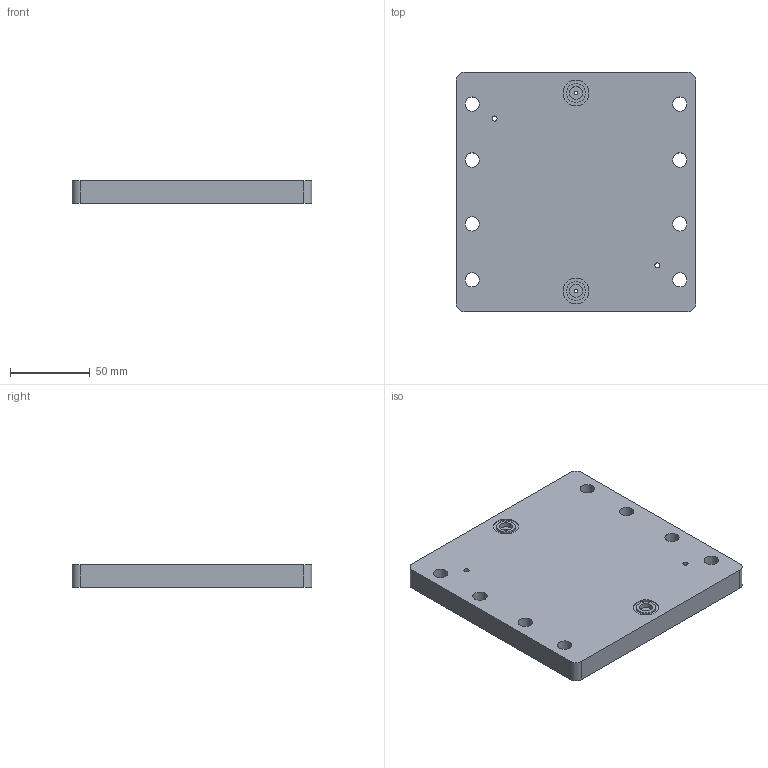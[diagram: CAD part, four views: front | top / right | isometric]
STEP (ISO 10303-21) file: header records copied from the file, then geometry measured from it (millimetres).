
FILE_DESCRIPTION(('FreeCAD Model'),'2;1');
FILE_NAME('Open CASCADE Shape Model','2026-10-30T14:44:38',('FreeCAD'),( 'FreeCAD'),'Open CASCADE STEP processor 7.8','FreeCAD','Unknown');
FILE_SCHEMA(('AUTOMOTIVE_DESIGN { 1 0 10303 214 1 1 1 1 }'));
Length unit declared in the file: millimetre
Products named in the file (1): Open CASCADE STEP translator 7.8 6
Bounding box: 150 x 150 x 14 mm (x, y, z)
Volume: 306338.5 mm3; surface area: 56322.3 mm2
Topology: 1 solids, 1 shells, 42 faces, 90 edges, 60 vertices
Faces by surface type: cylinder 26, plane 16
Full cylindrical faces by diameter (mm): 2.2 x2, 3.2 x2, 3.4 x2, 6 x2, 8 x2, 9 x8, 11.8 x2, 16.2 x2
Entity records: 1224 total; most frequent: DIRECTION 228, CARTESIAN_POINT 193, ORIENTED_EDGE 180, AXIS2_PLACEMENT_3D 95, EDGE_CURVE 90, FACE_BOUND 76, EDGE_LOOP 76, VERTEX_POINT 60
